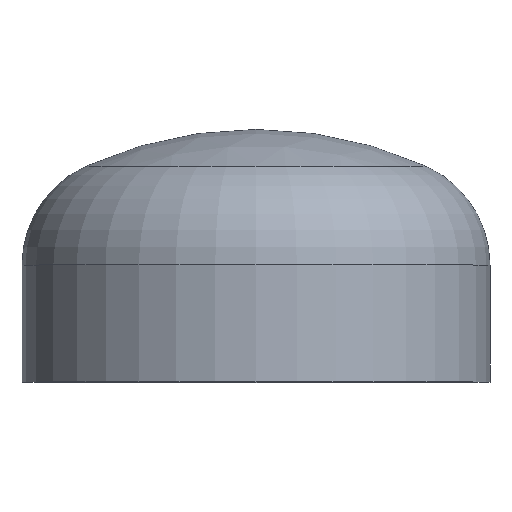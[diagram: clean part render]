
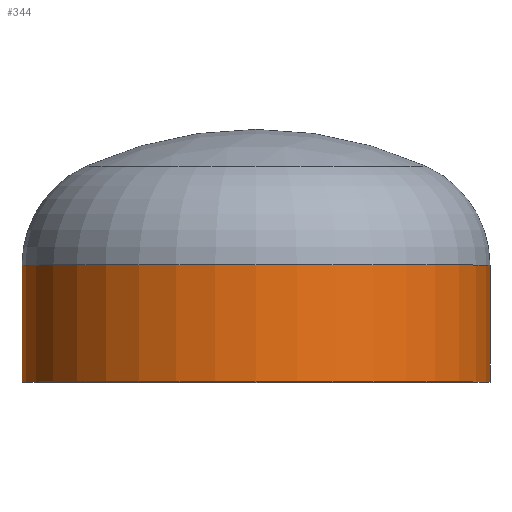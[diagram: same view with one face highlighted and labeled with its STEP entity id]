
A CAD part, top view. The second image highlights one B-rep face of the part: STEP entity #344.
In plain terms, the highlighted cylindrical face has radius 300 mm (diameter 600 mm), a partial arc.
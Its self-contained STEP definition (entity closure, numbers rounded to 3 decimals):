
#4 = LINE ( 'NONE', #238, #298 ) ;
#6 = ORIENTED_EDGE ( 'NONE', *, *, #110, .T. ) ;
#15 = VERTEX_POINT ( 'NONE', #260 ) ;
#16 = AXIS2_PLACEMENT_3D ( 'NONE', #153, #28, #53 ) ;
#17 = EDGE_LOOP ( 'NONE', ( #120, #6, #370, #74 ) ) ;
#20 = AXIS2_PLACEMENT_3D ( 'NONE', #46, #361, #286 ) ;
#28 = DIRECTION ( 'NONE',  ( 0., -1., 0. ) ) ;
#45 = VERTEX_POINT ( 'NONE', #284 ) ;
#46 = CARTESIAN_POINT ( 'NONE',  ( 0., 150., 0. ) ) ;
#53 = DIRECTION ( 'NONE',  ( 1., 0., 0. ) ) ;
#74 = ORIENTED_EDGE ( 'NONE', *, *, #108, .F. ) ;
#77 = VERTEX_POINT ( 'NONE', #248 ) ;
#97 = AXIS2_PLACEMENT_3D ( 'NONE', #319, #316, #313 ) ;
#102 = VERTEX_POINT ( 'NONE', #239 ) ;
#108 = EDGE_CURVE ( 'NONE', #45, #15, #4, .T. ) ;
#109 = EDGE_CURVE ( 'NONE', #15, #77, #236, .T. ) ;
#110 = EDGE_CURVE ( 'NONE', #102, #77, #131, .T. ) ;
#120 = ORIENTED_EDGE ( 'NONE', *, *, #349, .T. ) ;
#131 = LINE ( 'NONE', #324, #288 ) ;
#153 = CARTESIAN_POINT ( 'NONE',  ( 0., 0., 0. ) ) ;
#236 = CIRCLE ( 'NONE', #97, 300. ) ;
#238 = CARTESIAN_POINT ( 'NONE',  ( 300., 0., 0. ) ) ;
#239 = CARTESIAN_POINT ( 'NONE',  ( -300., 150., 0. ) ) ;
#247 = CIRCLE ( 'NONE', #20, 300. ) ;
#248 = CARTESIAN_POINT ( 'NONE',  ( -300., 0., 0. ) ) ;
#260 = CARTESIAN_POINT ( 'NONE',  ( 300., 0., 0. ) ) ;
#284 = CARTESIAN_POINT ( 'NONE',  ( 300., 150., 0. ) ) ;
#286 = DIRECTION ( 'NONE',  ( 1., 0., 0. ) ) ;
#288 = VECTOR ( 'NONE', #330, 1000. ) ;
#298 = VECTOR ( 'NONE', #332, 1000. ) ;
#313 = DIRECTION ( 'NONE',  ( 1., 0., 0. ) ) ;
#316 = DIRECTION ( 'NONE',  ( 0., -1., 0. ) ) ;
#319 = CARTESIAN_POINT ( 'NONE',  ( 0., 0., 0. ) ) ;
#324 = CARTESIAN_POINT ( 'NONE',  ( -300., 0., 0. ) ) ;
#330 = DIRECTION ( 'NONE',  ( 0., -1., 0. ) ) ;
#332 = DIRECTION ( 'NONE',  ( 0., -1., 0. ) ) ;
#344 = ADVANCED_FACE ( 'NONE', ( #374 ), #364, .T. ) ;
#349 = EDGE_CURVE ( 'NONE', #45, #102, #247, .T. ) ;
#361 = DIRECTION ( 'NONE',  ( 0., -1., 0. ) ) ;
#364 = CYLINDRICAL_SURFACE ( 'NONE', #16, 300. ) ;
#370 = ORIENTED_EDGE ( 'NONE', *, *, #109, .F. ) ;
#374 = FACE_OUTER_BOUND ( 'NONE', #17, .T. ) ;
